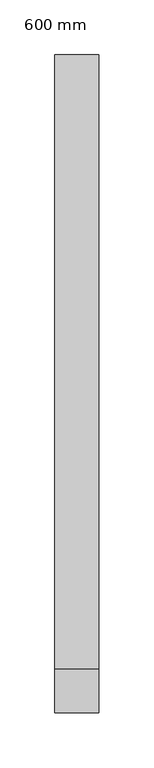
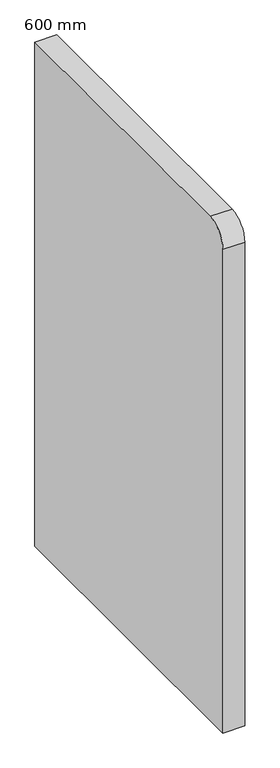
"""IFC4 building model written with IfcOpenShell, lengths in millimetres: furniture geometry, MATERIA-Monolite-Endpiece : 600 mm."""

from ifc_helpers import new_model, si_unit, point, frame, frame_2d, origin, place, context, project, spatial, polyline, circle_curve, trimmed, segment, composite_curve, outline, extrude, source, transform, mapped, element, save


def furniture_600_mm_ed741360(model_context):
    return source(origin(), model_context, "Body", "SweptSolid", [
        extrude(outline(composite_curve([segment(polyline([(-560.0000591, 1230.0), (0.0, 1230.0), (0.0, 248.0), (-600.0000591, 248.0), (-600.0000591, 1190.0)]), True, "CONTINUOUS"), segment(trimmed(circle_curve(frame_2d((-560.0000591, 1190.0)), 40.0), [point((-600.0000591, 1190.0))], [point((-560.0000591, 1230.0))], False, "CARTESIAN"), True, "CONTINUOUS")], self_intersect=False)), frame((-39.9999749, 0.0, 0.0), z_axis=(1.0, 0.0, 0.0), x_axis=(0.0, 1.0, 0.0)), (0.0, 0.0, 1.0), 39.9999749),
    ])


if __name__ == "__main__":
    model = new_model("IFC4")
    model_context = context("Model", 3, world=origin())
    ifc_project = project(units=[si_unit("LENGTHUNIT", "METRE", prefix="MILLI")], contexts=[model_context])
    site = spatial("IfcSite", under=ifc_project)
    building = spatial("IfcBuilding", under=site)
    placement = place(None, origin())
    furniture_600_mm_shape = furniture_600_mm_ed741360(model_context)
    element("IfcFurniture", 1, ObjectType="MATERIA-Monolite-Endpiece : 600 mm", at=placement, inside=building, context=model_context, shape_type="MappedRepresentation", body=[
        mapped(furniture_600_mm_shape, transform((0.0, 0.0, 0.0), x_axis=(1.0, 0.0, 0.0), y_axis=(0.0, 1.0, 0.0), z_axis=(0.0, 0.0, 1.0))),
    ])
    save(model, "model.ifc")
